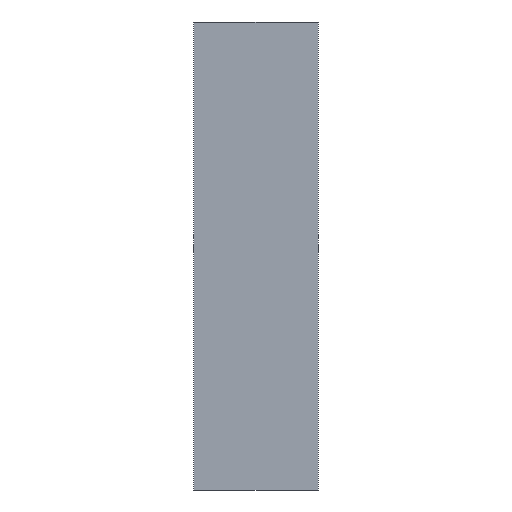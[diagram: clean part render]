
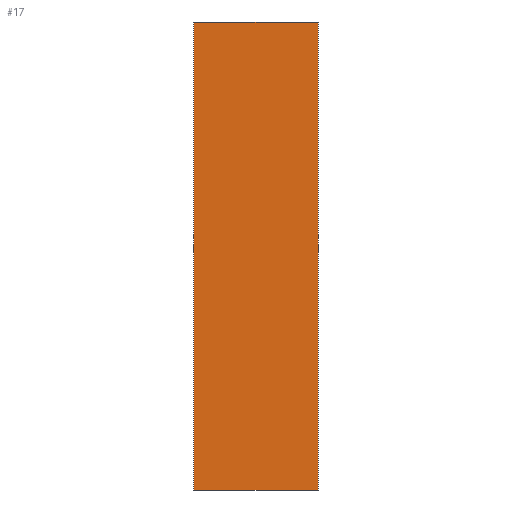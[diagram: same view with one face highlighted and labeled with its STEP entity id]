
A CAD part, left-side view. The second image highlights one B-rep face of the part: STEP entity #17.
In plain terms, the highlighted planar face has unit normal (-1, 0, 0).
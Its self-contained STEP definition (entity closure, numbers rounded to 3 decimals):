
#17 = ADVANCED_FACE('',(#18),#52,.F.);
#18 = FACE_BOUND('',#19,.F.);
#19 = EDGE_LOOP('',(#20,#30,#38,#46));
#20 = ORIENTED_EDGE('',*,*,#21,.F.);
#21 = EDGE_CURVE('',#22,#24,#26,.T.);
#22 = VERTEX_POINT('',#23);
#23 = CARTESIAN_POINT('',(-20.,-8.,299.));
#24 = VERTEX_POINT('',#25);
#25 = CARTESIAN_POINT('',(-20.,-8.,329.));
#26 = LINE('',#27,#28);
#27 = CARTESIAN_POINT('',(-20.,-8.,299.));
#28 = VECTOR('',#29,1.);
#29 = DIRECTION('',(0.,0.,1.));
#30 = ORIENTED_EDGE('',*,*,#31,.T.);
#31 = EDGE_CURVE('',#22,#32,#34,.T.);
#32 = VERTEX_POINT('',#33);
#33 = CARTESIAN_POINT('',(-20.,0.,299.));
#34 = LINE('',#35,#36);
#35 = CARTESIAN_POINT('',(-20.,-8.,299.));
#36 = VECTOR('',#37,1.);
#37 = DIRECTION('',(0.,1.,0.));
#38 = ORIENTED_EDGE('',*,*,#39,.T.);
#39 = EDGE_CURVE('',#32,#40,#42,.T.);
#40 = VERTEX_POINT('',#41);
#41 = CARTESIAN_POINT('',(-20.,0.,329.));
#42 = LINE('',#43,#44);
#43 = CARTESIAN_POINT('',(-20.,0.,299.));
#44 = VECTOR('',#45,1.);
#45 = DIRECTION('',(0.,0.,1.));
#46 = ORIENTED_EDGE('',*,*,#47,.F.);
#47 = EDGE_CURVE('',#24,#40,#48,.T.);
#48 = LINE('',#49,#50);
#49 = CARTESIAN_POINT('',(-20.,-8.,329.));
#50 = VECTOR('',#51,1.);
#51 = DIRECTION('',(0.,1.,0.));
#52 = PLANE('',#53);
#53 = AXIS2_PLACEMENT_3D('',#54,#55,#56);
#54 = CARTESIAN_POINT('',(-20.,-8.,299.));
#55 = DIRECTION('',(1.,0.,0.));
#56 = DIRECTION('',(0.,0.,1.));
